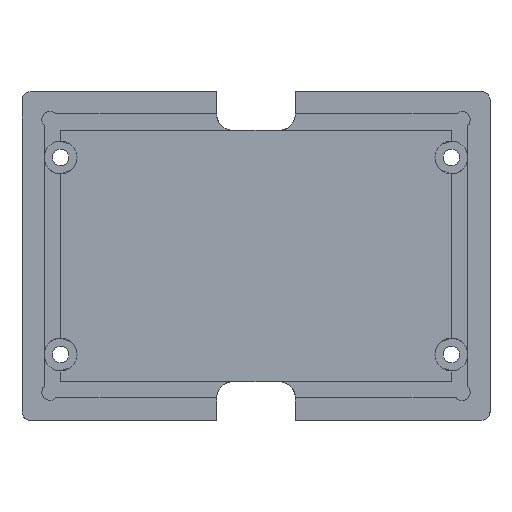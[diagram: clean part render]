
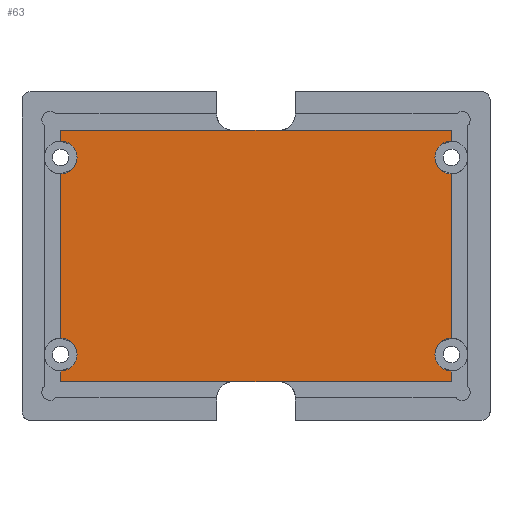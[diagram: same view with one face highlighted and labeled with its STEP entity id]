
A CAD part, top view. The second image highlights one B-rep face of the part: STEP entity #63.
In plain terms, the highlighted planar face has unit normal (0, 0, 1).
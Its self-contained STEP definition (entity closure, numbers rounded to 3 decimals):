
#63=ADVANCED_FACE('',(#151),#1415,.T.);
#151=FACE_OUTER_BOUND('',#242,.T.);
#242=EDGE_LOOP('',(#475,#476,#477,#478,#479,#480,#481,#482,#483,#484,#485,
#486,#487,#488,#489,#490));
#475=ORIENTED_EDGE('',*,*,#886,.T.);
#476=ORIENTED_EDGE('',*,*,#873,.T.);
#477=ORIENTED_EDGE('',*,*,#883,.T.);
#478=ORIENTED_EDGE('',*,*,#814,.T.);
#479=ORIENTED_EDGE('',*,*,#771,.T.);
#480=ORIENTED_EDGE('',*,*,#831,.F.);
#481=ORIENTED_EDGE('',*,*,#844,.F.);
#482=ORIENTED_EDGE('',*,*,#841,.T.);
#483=ORIENTED_EDGE('',*,*,#858,.T.);
#484=ORIENTED_EDGE('',*,*,#845,.T.);
#485=ORIENTED_EDGE('',*,*,#855,.T.);
#486=ORIENTED_EDGE('',*,*,#793,.T.);
#487=ORIENTED_EDGE('',*,*,#772,.T.);
#488=ORIENTED_EDGE('',*,*,#859,.F.);
#489=ORIENTED_EDGE('',*,*,#872,.F.);
#490=ORIENTED_EDGE('',*,*,#869,.T.);
#771=EDGE_CURVE('',#1219,#1274,#1141,.T.);
#772=EDGE_CURVE('',#1221,#1292,#1142,.T.);
#793=EDGE_CURVE('',#1222,#1221,#1152,.T.);
#814=EDGE_CURVE('',#1220,#1219,#1166,.T.);
#831=EDGE_CURVE('',#1278,#1274,#1017,.T.);
#841=EDGE_CURVE('',#1277,#1287,#1178,.T.);
#844=EDGE_CURVE('',#1277,#1278,#1025,.T.);
#845=EDGE_CURVE('',#1288,#1284,#1026,.T.);
#855=EDGE_CURVE('',#1284,#1222,#1181,.T.);
#858=EDGE_CURVE('',#1287,#1288,#1036,.T.);
#859=EDGE_CURVE('',#1297,#1292,#1037,.T.);
#869=EDGE_CURVE('',#1295,#1305,#1186,.T.);
#872=EDGE_CURVE('',#1295,#1297,#1045,.T.);
#873=EDGE_CURVE('',#1306,#1302,#1046,.T.);
#883=EDGE_CURVE('',#1302,#1220,#1189,.T.);
#886=EDGE_CURVE('',#1305,#1306,#1056,.T.);
#1017=(
BOUNDED_CURVE()
B_SPLINE_CURVE(2,(#2305,#2306,#2307),.UNSPECIFIED.,.F.,.F.)
B_SPLINE_CURVE_WITH_KNOTS((3,3),(0.,7.854),.UNSPECIFIED.)
CURVE()
GEOMETRIC_REPRESENTATION_ITEM()
RATIONAL_B_SPLINE_CURVE((1.,0.707,1.))
REPRESENTATION_ITEM('')
);
#1025=(
BOUNDED_CURVE()
B_SPLINE_CURVE(2,(#2347,#2348,#2349),.UNSPECIFIED.,.F.,.F.)
B_SPLINE_CURVE_WITH_KNOTS((3,3),(23.562,31.416),
 .UNSPECIFIED.)
CURVE()
GEOMETRIC_REPRESENTATION_ITEM()
RATIONAL_B_SPLINE_CURVE((1.,0.707,1.))
REPRESENTATION_ITEM('')
);
#1026=(
BOUNDED_CURVE()
B_SPLINE_CURVE(2,(#2350,#2351,#2352),.UNSPECIFIED.,.F.,.F.)
B_SPLINE_CURVE_WITH_KNOTS((3,3),(0.,7.854),.UNSPECIFIED.)
CURVE()
GEOMETRIC_REPRESENTATION_ITEM()
RATIONAL_B_SPLINE_CURVE((1.,0.707,1.))
REPRESENTATION_ITEM('')
);
#1036=(
BOUNDED_CURVE()
B_SPLINE_CURVE(2,(#2388,#2389,#2390),.UNSPECIFIED.,.F.,.F.)
B_SPLINE_CURVE_WITH_KNOTS((3,3),(23.562,31.416),
 .UNSPECIFIED.)
CURVE()
GEOMETRIC_REPRESENTATION_ITEM()
RATIONAL_B_SPLINE_CURVE((1.,0.707,1.))
REPRESENTATION_ITEM('')
);
#1037=(
BOUNDED_CURVE()
B_SPLINE_CURVE(2,(#2391,#2392,#2393),.UNSPECIFIED.,.F.,.F.)
B_SPLINE_CURVE_WITH_KNOTS((3,3),(0.,7.854),.UNSPECIFIED.)
CURVE()
GEOMETRIC_REPRESENTATION_ITEM()
RATIONAL_B_SPLINE_CURVE((1.,0.707,1.))
REPRESENTATION_ITEM('')
);
#1045=(
BOUNDED_CURVE()
B_SPLINE_CURVE(2,(#2433,#2434,#2435),.UNSPECIFIED.,.F.,.F.)
B_SPLINE_CURVE_WITH_KNOTS((3,3),(23.562,31.416),
 .UNSPECIFIED.)
CURVE()
GEOMETRIC_REPRESENTATION_ITEM()
RATIONAL_B_SPLINE_CURVE((1.,0.707,1.))
REPRESENTATION_ITEM('')
);
#1046=(
BOUNDED_CURVE()
B_SPLINE_CURVE(2,(#2436,#2437,#2438),.UNSPECIFIED.,.F.,.F.)
B_SPLINE_CURVE_WITH_KNOTS((3,3),(0.,7.854),.UNSPECIFIED.)
CURVE()
GEOMETRIC_REPRESENTATION_ITEM()
RATIONAL_B_SPLINE_CURVE((1.,0.707,1.))
REPRESENTATION_ITEM('')
);
#1056=(
BOUNDED_CURVE()
B_SPLINE_CURVE(2,(#2474,#2475,#2476),.UNSPECIFIED.,.F.,.F.)
B_SPLINE_CURVE_WITH_KNOTS((3,3),(23.562,31.416),
 .UNSPECIFIED.)
CURVE()
GEOMETRIC_REPRESENTATION_ITEM()
RATIONAL_B_SPLINE_CURVE((1.,0.707,1.))
REPRESENTATION_ITEM('')
);
#1141=B_SPLINE_CURVE_WITH_KNOTS('',1,(#2171,#2172),.UNSPECIFIED.,.F.,.F.,
(2,2),(0.,3.25),.UNSPECIFIED.);
#1142=B_SPLINE_CURVE_WITH_KNOTS('',1,(#2173,#2174),.UNSPECIFIED.,.F.,.F.,
(2,2),(129.,132.25),.UNSPECIFIED.);
#1152=B_SPLINE_CURVE_WITH_KNOTS('',1,(#2220,#2221,#2222,#2223),
 .UNSPECIFIED.,.F.,.F.,(2,1,1,2),(0.,56.912,72.088,
129.),.UNSPECIFIED.);
#1166=B_SPLINE_CURVE_WITH_KNOTS('',1,(#2269,#2270,#2271,#2272),
 .UNSPECIFIED.,.F.,.F.,(2,1,1,2),(215.5,272.412,287.588,
344.5),.UNSPECIFIED.);
#1178=B_SPLINE_CURVE_WITH_KNOTS('',1,(#2339,#2340,#2341,#2342),
 .UNSPECIFIED.,.F.,.F.,(2,1,1,2),(13.25,33.25,43.25,63.25),
 .UNSPECIFIED.);
#1181=B_SPLINE_CURVE_WITH_KNOTS('',1,(#2382,#2383),.UNSPECIFIED.,.F.,.F.,
(2,2),(73.25,76.5),.UNSPECIFIED.);
#1186=B_SPLINE_CURVE_WITH_KNOTS('',1,(#2425,#2426,#2427,#2428),
 .UNSPECIFIED.,.F.,.F.,(2,1,1,2),(142.25,162.25,172.25,192.25),
 .UNSPECIFIED.);
#1189=B_SPLINE_CURVE_WITH_KNOTS('',1,(#2468,#2469),.UNSPECIFIED.,.F.,.F.,
(2,2),(202.25,205.5),.UNSPECIFIED.);
#1219=VERTEX_POINT('',#2007);
#1220=VERTEX_POINT('',#2008);
#1221=VERTEX_POINT('',#2009);
#1222=VERTEX_POINT('',#2010);
#1274=VERTEX_POINT('',#2062);
#1277=VERTEX_POINT('',#2065);
#1278=VERTEX_POINT('',#2066);
#1284=VERTEX_POINT('',#2072);
#1287=VERTEX_POINT('',#2075);
#1288=VERTEX_POINT('',#2076);
#1292=VERTEX_POINT('',#2080);
#1295=VERTEX_POINT('',#2083);
#1297=VERTEX_POINT('',#2085);
#1302=VERTEX_POINT('',#2090);
#1305=VERTEX_POINT('',#2093);
#1306=VERTEX_POINT('',#2094);
#1415=PLANE('',#1477);
#1477=AXIS2_PLACEMENT_3D('',#1567,#1522,$);
#1522=DIRECTION('',(0.,0.,1.));
#1567=CARTESIAN_POINT('',(135.75,93.25,8.75));
#2007=CARTESIAN_POINT('',(16.75,93.25,8.75));
#2008=CARTESIAN_POINT('',(135.75,93.25,8.75));
#2009=CARTESIAN_POINT('',(135.75,16.75,8.75));
#2010=CARTESIAN_POINT('',(16.75,16.75,8.75));
#2062=CARTESIAN_POINT('',(16.75,90.,8.75));
#2065=CARTESIAN_POINT('',(16.75,80.,8.75));
#2066=CARTESIAN_POINT('',(21.75,85.,8.75));
#2072=CARTESIAN_POINT('',(16.75,20.,8.75));
#2075=CARTESIAN_POINT('',(16.75,30.,8.75));
#2076=CARTESIAN_POINT('',(21.75,25.,8.75));
#2080=CARTESIAN_POINT('',(135.75,20.,8.75));
#2083=CARTESIAN_POINT('',(135.75,30.,8.75));
#2085=CARTESIAN_POINT('',(130.75,25.,8.75));
#2090=CARTESIAN_POINT('',(135.75,90.,8.75));
#2093=CARTESIAN_POINT('',(135.75,80.,8.75));
#2094=CARTESIAN_POINT('',(130.75,85.,8.75));
#2171=CARTESIAN_POINT('',(16.75,93.25,8.75));
#2172=CARTESIAN_POINT('',(16.75,90.,8.75));
#2173=CARTESIAN_POINT('',(135.75,16.75,8.75));
#2174=CARTESIAN_POINT('',(135.75,20.,8.75));
#2220=CARTESIAN_POINT('',(16.75,16.75,8.75));
#2221=CARTESIAN_POINT('',(69.25,16.75,8.75));
#2222=CARTESIAN_POINT('',(83.25,16.75,8.75));
#2223=CARTESIAN_POINT('',(135.75,16.75,8.75));
#2269=CARTESIAN_POINT('',(135.75,93.25,8.75));
#2270=CARTESIAN_POINT('',(83.25,93.25,8.75));
#2271=CARTESIAN_POINT('',(69.25,93.25,8.75));
#2272=CARTESIAN_POINT('',(16.75,93.25,8.75));
#2305=CARTESIAN_POINT('',(21.75,85.,8.75));
#2306=CARTESIAN_POINT('',(21.75,90.,8.75));
#2307=CARTESIAN_POINT('',(16.75,90.,8.75));
#2339=CARTESIAN_POINT('',(16.75,80.,8.75));
#2340=CARTESIAN_POINT('',(16.75,60.,8.75));
#2341=CARTESIAN_POINT('',(16.75,50.,8.75));
#2342=CARTESIAN_POINT('',(16.75,30.,8.75));
#2347=CARTESIAN_POINT('',(16.75,80.,8.75));
#2348=CARTESIAN_POINT('',(21.75,80.,8.75));
#2349=CARTESIAN_POINT('',(21.75,85.,8.75));
#2350=CARTESIAN_POINT('',(21.75,25.,8.75));
#2351=CARTESIAN_POINT('',(21.75,20.,8.75));
#2352=CARTESIAN_POINT('',(16.75,20.,8.75));
#2382=CARTESIAN_POINT('',(16.75,20.,8.75));
#2383=CARTESIAN_POINT('',(16.75,16.75,8.75));
#2388=CARTESIAN_POINT('',(16.75,30.,8.75));
#2389=CARTESIAN_POINT('',(21.75,30.,8.75));
#2390=CARTESIAN_POINT('',(21.75,25.,8.75));
#2391=CARTESIAN_POINT('',(130.75,25.,8.75));
#2392=CARTESIAN_POINT('',(130.75,20.,8.75));
#2393=CARTESIAN_POINT('',(135.75,20.,8.75));
#2425=CARTESIAN_POINT('',(135.75,30.,8.75));
#2426=CARTESIAN_POINT('',(135.75,50.,8.75));
#2427=CARTESIAN_POINT('',(135.75,60.,8.75));
#2428=CARTESIAN_POINT('',(135.75,80.,8.75));
#2433=CARTESIAN_POINT('',(135.75,30.,8.75));
#2434=CARTESIAN_POINT('',(130.75,30.,8.75));
#2435=CARTESIAN_POINT('',(130.75,25.,8.75));
#2436=CARTESIAN_POINT('',(130.75,85.,8.75));
#2437=CARTESIAN_POINT('',(130.75,90.,8.75));
#2438=CARTESIAN_POINT('',(135.75,90.,8.75));
#2468=CARTESIAN_POINT('',(135.75,90.,8.75));
#2469=CARTESIAN_POINT('',(135.75,93.25,8.75));
#2474=CARTESIAN_POINT('',(135.75,80.,8.75));
#2475=CARTESIAN_POINT('',(130.75,80.,8.75));
#2476=CARTESIAN_POINT('',(130.75,85.,8.75));
